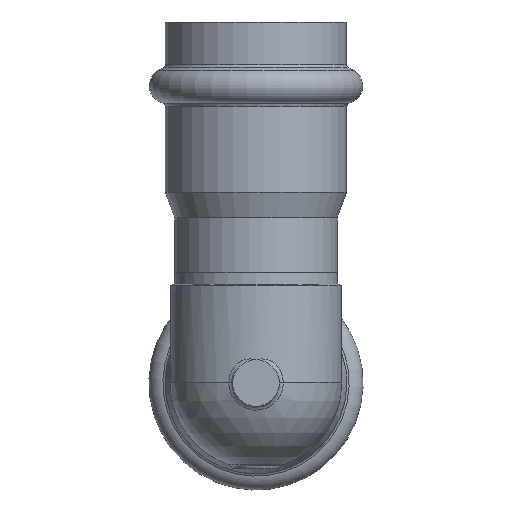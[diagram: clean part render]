
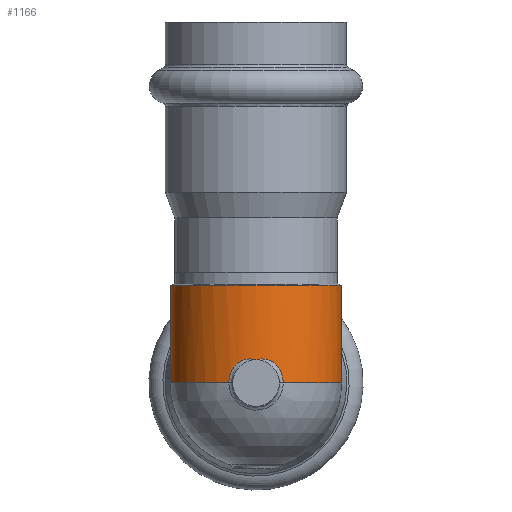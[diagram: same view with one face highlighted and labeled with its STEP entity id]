
A CAD part, front view. The second image highlights one B-rep face of the part: STEP entity #1166.
In plain terms, the highlighted cylindrical face has radius 14.7 mm (diameter 29.4 mm), a full revolution.
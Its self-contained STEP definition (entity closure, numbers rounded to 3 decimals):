
#580=CARTESIAN_POINT('',(-14.7,0.0,0.));
#581=VERTEX_POINT('',#580);
#589=CARTESIAN_POINT('',(14.7,0.,0.0));
#590=VERTEX_POINT('',#589);
#763=CARTESIAN_POINT('',(4.665,-13.94,0.));
#764=VERTEX_POINT('',#763);
#792=CARTESIAN_POINT('',(-4.665,-13.94,0.));
#793=VERTEX_POINT('',#792);
#944=CARTESIAN_POINT('',(0.0,-14.7,4.));
#945=VERTEX_POINT('',#944);
#946=CARTESIAN_POINT('',(4.665,-13.94,0.));
#947=CARTESIAN_POINT('',(4.665,-13.94,0.354));
#948=CARTESIAN_POINT('',(4.607,-13.96,0.889));
#949=CARTESIAN_POINT('',(4.418,-14.021,1.566));
#950=CARTESIAN_POINT('',(4.149,-14.104,2.219));
#951=CARTESIAN_POINT('',(3.773,-14.211,2.798));
#952=CARTESIAN_POINT('',(3.292,-14.328,3.282));
#953=CARTESIAN_POINT('',(2.756,-14.444,3.687));
#954=CARTESIAN_POINT('',(1.99,-14.576,4.037));
#955=CARTESIAN_POINT('',(0.998,-14.678,4.177));
#956=CARTESIAN_POINT('',(0.333,-14.7,4.089));
#957=CARTESIAN_POINT('',(0.012,-14.7,4.003));
#958=CARTESIAN_POINT('',(0.008,-14.7,4.002));
#959=CARTESIAN_POINT('',(0.004,-14.7,4.001));
#960=CARTESIAN_POINT('',(0.,-14.7,4.));
#961=B_SPLINE_CURVE_WITH_KNOTS('',3,(#946,#947,#948,#949,#950,#951,#952,#953,#954,#955,#956,#957,#958,#959,#960),.UNSPECIFIED.,.F.,.U.,(4,1,1,1,1,1,1,1,1,3,4),(-0.743,-0.637,-0.584,-0.531,-0.425,-0.372,-0.319,-0.212,-0.106,0.0,0.001),.UNSPECIFIED.);
#962=EDGE_CURVE('',#764,#945,#961,.T.);
#1063=CARTESIAN_POINT('',(0.,-14.7,4.));
#1064=CARTESIAN_POINT('',(-0.004,-14.7,4.001));
#1065=CARTESIAN_POINT('',(-0.008,-14.7,4.002));
#1066=CARTESIAN_POINT('',(-0.012,-14.7,4.003));
#1067=CARTESIAN_POINT('',(-0.333,-14.7,4.089));
#1068=CARTESIAN_POINT('',(-0.999,-14.678,4.176));
#1069=CARTESIAN_POINT('',(-1.989,-14.576,4.037));
#1070=CARTESIAN_POINT('',(-2.643,-14.464,3.739));
#1071=CARTESIAN_POINT('',(-3.057,-14.379,3.46));
#1072=CARTESIAN_POINT('',(-3.322,-14.321,3.252));
#1073=CARTESIAN_POINT('',(-3.653,-14.24,2.918));
#1074=CARTESIAN_POINT('',(-3.96,-14.157,2.51));
#1075=CARTESIAN_POINT('',(-4.303,-14.058,1.903));
#1076=CARTESIAN_POINT('',(-4.589,-13.966,1.065));
#1077=CARTESIAN_POINT('',(-4.665,-13.94,0.354));
#1078=CARTESIAN_POINT('',(-4.665,-13.94,0.));
#1079=B_SPLINE_CURVE_WITH_KNOTS('',3,(#1063,#1064,#1065,#1066,#1067,#1068,#1069,#1070,#1071,#1072,#1073,#1074,#1075,#1076,#1077,#1078),.UNSPECIFIED.,.F.,.U.,(4,3,1,1,1,1,1,1,1,1,1,4),(-1.488,-1.487,-1.381,-1.274,-1.168,-1.155,-1.115,-1.062,-1.009,-0.956,-0.85,-0.743),.UNSPECIFIED.);
#1080=EDGE_CURVE('',#945,#793,#1079,.T.);
#1092=CARTESIAN_POINT('',(0.0,0.0,0.0));
#1093=DIRECTION('',(0.0,0.0,-1.0));
#1094=DIRECTION('',(-1.0,0.0,0.0));
#1095=AXIS2_PLACEMENT_3D('',#1092,#1093,#1094);
#1096=CIRCLE('',#1095,14.7);
#1097=EDGE_CURVE('',#590,#764,#1096,.T.);
#1101=CARTESIAN_POINT('',(0.0,0.0,0.0));
#1102=DIRECTION('',(0.0,0.0,-1.0));
#1103=DIRECTION('',(-1.0,0.0,0.0));
#1104=AXIS2_PLACEMENT_3D('',#1101,#1102,#1103);
#1105=CIRCLE('',#1104,14.7);
#1106=EDGE_CURVE('',#793,#581,#1105,.T.);
#1137=CARTESIAN_POINT('',(0.0,0.0,0.0));
#1138=DIRECTION('',(0.0,0.0,1.0));
#1139=DIRECTION('',(-1.0,0.0,0.0));
#1140=AXIS2_PLACEMENT_3D('',#1137,#1138,#1139);
#1141=CYLINDRICAL_SURFACE('',#1140,14.7);
#1142=ORIENTED_EDGE('',*,*,#962,.F.);
#1143=ORIENTED_EDGE('',*,*,#1097,.F.);
#1144=CARTESIAN_POINT('',(0.0,0.0,0.0));
#1145=DIRECTION('',(0.0,0.73,-0.683));
#1146=DIRECTION('',(0.0,0.683,0.73));
#1147=AXIS2_PLACEMENT_3D('',#1144,#1145,#1146);
#1148=ELLIPSE('',#1147,21.508,14.7);
#1149=EDGE_CURVE('',#581,#590,#1148,.T.);
#1150=ORIENTED_EDGE('',*,*,#1149,.F.);
#1151=ORIENTED_EDGE('',*,*,#1106,.F.);
#1152=ORIENTED_EDGE('',*,*,#1080,.F.);
#1153=EDGE_LOOP('',(#1142,#1143,#1150,#1151,#1152));
#1154=FACE_OUTER_BOUND('',#1153,.T.);
#1155=CARTESIAN_POINT('',(0.0,-14.7,16.745));
#1156=VERTEX_POINT('',#1155);
#1157=CARTESIAN_POINT('',(0.0,0.0,16.745));
#1158=DIRECTION('',(0.0,0.0,-1.0));
#1159=DIRECTION('',(-1.0,0.0,0.0));
#1160=AXIS2_PLACEMENT_3D('',#1157,#1158,#1159);
#1161=CIRCLE('',#1160,14.7);
#1162=EDGE_CURVE('',#1156,#1156,#1161,.T.);
#1163=ORIENTED_EDGE('',*,*,#1162,.T.);
#1164=EDGE_LOOP('',(#1163));
#1165=FACE_BOUND('',#1164,.T.);
#1166=ADVANCED_FACE('',(#1154,#1165),#1141,.T.);
